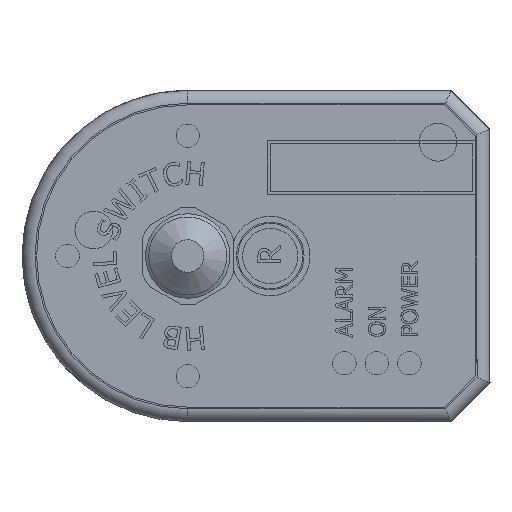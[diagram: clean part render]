
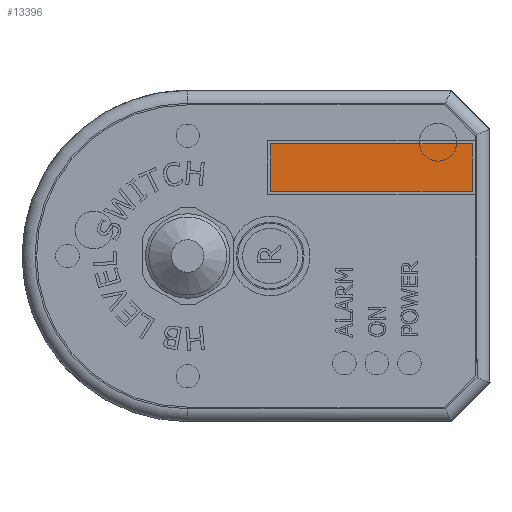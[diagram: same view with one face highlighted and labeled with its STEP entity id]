
A CAD part, front view. The second image highlights one B-rep face of the part: STEP entity #13396.
In plain terms, the highlighted planar face has unit normal (0, -1, 0).
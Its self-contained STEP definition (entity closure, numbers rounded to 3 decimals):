
#13357=CARTESIAN_POINT('',(28.25,-47.2,13.6));
#13358=DIRECTION('',(0.,-1.0,0.));
#13359=DIRECTION('',(0.,0.,1.0));
#13360=AXIS2_PLACEMENT_3D('',#13357,#13358,#13359);
#13361=PLANE('',#13360);
#13362=CARTESIAN_POINT('',(43.75,-47.2,17.25));
#13363=VERTEX_POINT('',#13362);
#13364=CARTESIAN_POINT('',(43.75,-47.2,9.95));
#13365=VERTEX_POINT('',#13364);
#13366=CARTESIAN_POINT('',(43.75,-47.2,17.25));
#13367=DIRECTION('',(0.,0.0,-1.0));
#13368=VECTOR('',#13367,7.3);
#13369=LINE('',#13366,#13368);
#13370=EDGE_CURVE('',#13363,#13365,#13369,.T.);
#13371=ORIENTED_EDGE('',*,*,#13370,.F.);
#13372=CARTESIAN_POINT('',(12.75,-47.2,17.25));
#13373=VERTEX_POINT('',#13372);
#13374=CARTESIAN_POINT('',(12.75,-47.2,17.25));
#13375=DIRECTION('',(1.0,0.,0.));
#13376=VECTOR('',#13375,31.);
#13377=LINE('',#13374,#13376);
#13378=EDGE_CURVE('',#13373,#13363,#13377,.T.);
#13379=ORIENTED_EDGE('',*,*,#13378,.F.);
#13380=CARTESIAN_POINT('',(12.75,-47.2,9.95));
#13381=VERTEX_POINT('',#13380);
#13382=CARTESIAN_POINT('',(12.75,-47.2,9.95));
#13383=DIRECTION('',(0.,0.0,1.0));
#13384=VECTOR('',#13383,7.3);
#13385=LINE('',#13382,#13384);
#13386=EDGE_CURVE('',#13381,#13373,#13385,.T.);
#13387=ORIENTED_EDGE('',*,*,#13386,.F.);
#13388=CARTESIAN_POINT('',(43.75,-47.2,9.95));
#13389=DIRECTION('',(-1.0,0.,0.));
#13390=VECTOR('',#13389,31.);
#13391=LINE('',#13388,#13390);
#13392=EDGE_CURVE('',#13365,#13381,#13391,.T.);
#13393=ORIENTED_EDGE('',*,*,#13392,.F.);
#13394=EDGE_LOOP('',(#13371,#13379,#13387,#13393));
#13395=FACE_OUTER_BOUND('',#13394,.T.);
#13396=ADVANCED_FACE('',(#13395),#13361,.T.);
